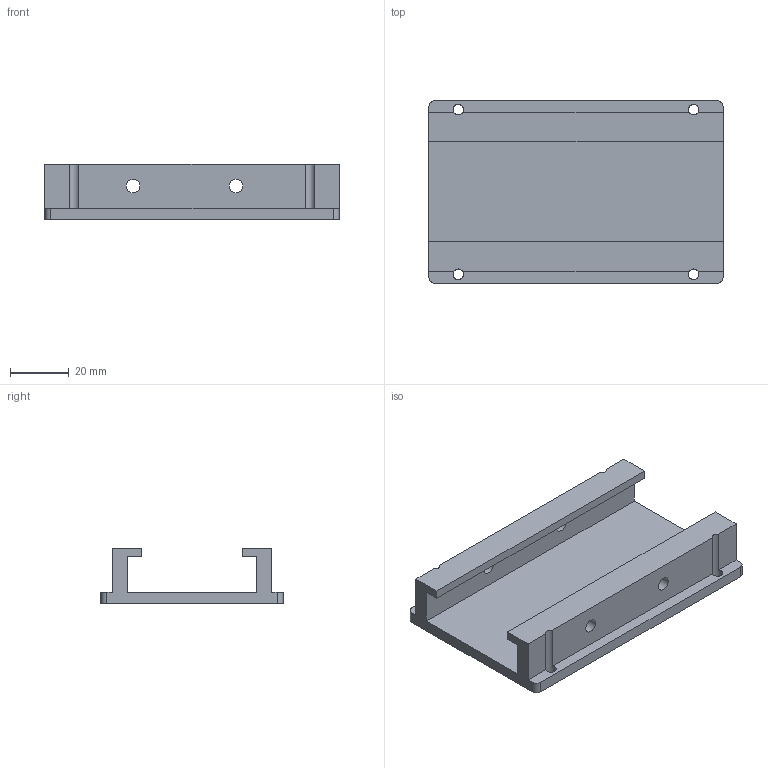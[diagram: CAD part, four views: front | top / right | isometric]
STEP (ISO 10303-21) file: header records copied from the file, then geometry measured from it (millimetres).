
FILE_DESCRIPTION(('Open CASCADE Model'),'2;1');
FILE_NAME('Open CASCADE Shape Model','2026-09-20T04:25:33',('Author'),( 'Open CASCADE'),'Open CASCADE STEP processor 7.9','Open CASCADE 7.9' ,'Unknown');
FILE_SCHEMA(('AUTOMOTIVE_DESIGN { 1 0 10303 214 1 1 1 1 }'));
Length unit declared in the file: millimetre
Products named in the file (1): Open CASCADE STEP translator 7.9 1
Bounding box: 100 x 62 x 19 mm (x, y, z)
Volume: 42190 mm3; surface area: 22323.5 mm2
Topology: 1 solids, 1 shells, 34 faces, 108 edges, 72 vertices
Faces by surface type: plane 22, cylinder 12
Full cylindrical faces by diameter (mm): 3.6 x4, 4.6 x4
Entity records: 2646 total; most frequent: CARTESIAN_POINT 471, DIRECTION 406, LINE 244, VECTOR 244, ORIENTED_EDGE 216, PCURVE 216, DEFINITIONAL_REPRESENTATION 216, EDGE_CURVE 108
